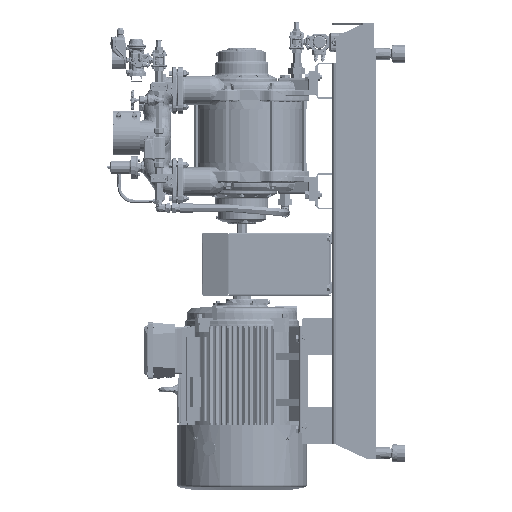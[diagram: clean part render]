
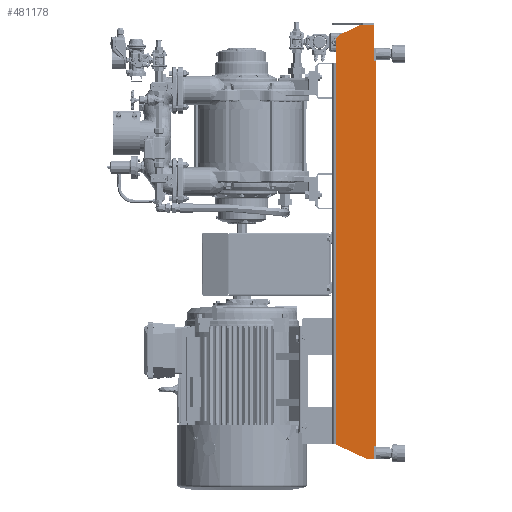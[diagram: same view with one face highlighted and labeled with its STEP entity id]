
A CAD part, left-side view. The second image highlights one B-rep face of the part: STEP entity #481178.
In plain terms, the highlighted planar face has unit normal (-1, 0, 0).
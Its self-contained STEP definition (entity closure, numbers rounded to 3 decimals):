
#31001=PLANE('',#512603);
#54616=FACE_OUTER_BOUND('',#82383,.T.);
#82383=EDGE_LOOP('',(#355766,#355767,#355768,#355769,#355770,#355771,#355772,
#355773,#355774,#355775,#355776,#355777));
#115014=LINE('',#880901,#151652);
#115648=LINE('',#882977,#152286);
#115649=LINE('',#882979,#152287);
#115650=LINE('',#882980,#152288);
#115651=LINE('',#882982,#152289);
#115652=LINE('',#882986,#152290);
#115653=LINE('',#882987,#152291);
#115654=LINE('',#882989,#152292);
#115655=LINE('',#882991,#152293);
#115656=LINE('',#882993,#152294);
#115657=LINE('',#882994,#152295);
#151652=VECTOR('',#579442,10.);
#152286=VECTOR('',#581252,10.);
#152287=VECTOR('',#581253,10.);
#152288=VECTOR('',#581254,10.);
#152289=VECTOR('',#581255,10.);
#152290=VECTOR('',#581258,10.);
#152291=VECTOR('',#581259,10.);
#152292=VECTOR('',#581260,10.);
#152293=VECTOR('',#581261,10.);
#152294=VECTOR('',#581262,10.);
#152295=VECTOR('',#581263,10.);
#180748=CIRCLE('',#512604,25.);
#207159=VERTEX_POINT('',#880898);
#207160=VERTEX_POINT('',#880900);
#207740=VERTEX_POINT('',#882965);
#207743=VERTEX_POINT('',#882975);
#207744=VERTEX_POINT('',#882976);
#207745=VERTEX_POINT('',#882978);
#207746=VERTEX_POINT('',#882981);
#207747=VERTEX_POINT('',#882983);
#207748=VERTEX_POINT('',#882985);
#207749=VERTEX_POINT('',#882988);
#207750=VERTEX_POINT('',#882990);
#207751=VERTEX_POINT('',#882992);
#260141=EDGE_CURVE('',#207159,#207160,#115014,.T.);
#261104=EDGE_CURVE('',#207743,#207744,#115648,.T.);
#261105=EDGE_CURVE('',#207743,#207745,#115649,.T.);
#261106=EDGE_CURVE('',#207160,#207745,#115650,.T.);
#261107=EDGE_CURVE('',#207746,#207159,#115651,.T.);
#261108=EDGE_CURVE('',#207747,#207746,#180748,.T.);
#261109=EDGE_CURVE('',#207748,#207747,#115652,.T.);
#261110=EDGE_CURVE('',#207748,#207740,#115653,.T.);
#261111=EDGE_CURVE('',#207749,#207740,#115654,.T.);
#261112=EDGE_CURVE('',#207750,#207749,#115655,.T.);
#261113=EDGE_CURVE('',#207750,#207751,#115656,.T.);
#261114=EDGE_CURVE('',#207751,#207744,#115657,.T.);
#355766=ORIENTED_EDGE('',*,*,#261104,.F.);
#355767=ORIENTED_EDGE('',*,*,#261105,.T.);
#355768=ORIENTED_EDGE('',*,*,#261106,.F.);
#355769=ORIENTED_EDGE('',*,*,#260141,.F.);
#355770=ORIENTED_EDGE('',*,*,#261107,.F.);
#355771=ORIENTED_EDGE('',*,*,#261108,.F.);
#355772=ORIENTED_EDGE('',*,*,#261109,.F.);
#355773=ORIENTED_EDGE('',*,*,#261110,.T.);
#355774=ORIENTED_EDGE('',*,*,#261111,.F.);
#355775=ORIENTED_EDGE('',*,*,#261112,.F.);
#355776=ORIENTED_EDGE('',*,*,#261113,.T.);
#355777=ORIENTED_EDGE('',*,*,#261114,.T.);
#481178=ADVANCED_FACE('',(#54616),#31001,.T.);
#512603=AXIS2_PLACEMENT_3D('',#882974,#581250,#581251);
#512604=AXIS2_PLACEMENT_3D('',#882984,#581256,#581257);
#579442=DIRECTION('',(0.,-1.,0.));
#581250=DIRECTION('center_axis',(-1.,0.,0.));
#581251=DIRECTION('ref_axis',(0.,0.,
-1.));
#581252=DIRECTION('',(0.,0.,-1.));
#581253=DIRECTION('',(0.,1.,0.));
#581254=DIRECTION('',(0.,0.,-1.));
#581255=DIRECTION('',(0.,-0.906,0.423));
#581256=DIRECTION('center_axis',(1.,0.,0.));
#581257=DIRECTION('ref_axis',(0.,0.843,0.537));
#581258=DIRECTION('',(0.,0.,1.));
#581259=DIRECTION('',(0.,0.,-1.));
#581260=DIRECTION('',(0.,0.906,0.423));
#581261=DIRECTION('',(0.,1.,0.));
#581262=DIRECTION('',(0.,0.,1.));
#581263=DIRECTION('',(0.,-1.,0.));
#880898=CARTESIAN_POINT('',(-254.,-3.804,666.766));
#880900=CARTESIAN_POINT('',(-254.,-49.,666.766));
#880901=CARTESIAN_POINT('',(-254.,-3.804,666.766));
#882965=CARTESIAN_POINT('',(-254.,83.,-771.734));
#882974=CARTESIAN_POINT('Origin',(-254.,348.586,-186.984));
#882975=CARTESIAN_POINT('',(-254.,-55.,542.766));
#882976=CARTESIAN_POINT('',(-254.,-55.,-777.734));
#882977=CARTESIAN_POINT('',(-254.,-55.,-980.734));
#882978=CARTESIAN_POINT('',(-254.,-49.,542.766));
#882979=CARTESIAN_POINT('',(-254.,146.793,542.766));
#882980=CARTESIAN_POINT('',(-254.,-49.,666.766));
#882981=CARTESIAN_POINT('',(-254.,68.565,633.02));
#882982=CARTESIAN_POINT('',(-254.,83.,626.289));
#882983=CARTESIAN_POINT('',(-254.,83.,610.362));
#882984=CARTESIAN_POINT('Origin',(-254.,58.,610.362));
#882985=CARTESIAN_POINT('',(-254.,83.,536.766));
#882986=CARTESIAN_POINT('',(-254.,83.,536.766));
#882987=CARTESIAN_POINT('',(-254.,83.,-186.984));
#882988=CARTESIAN_POINT('',(-254.,-24.225,-821.734));
#882989=CARTESIAN_POINT('',(-254.,-24.225,-821.734));
#882990=CARTESIAN_POINT('',(-254.,-49.,-821.734));
#882991=CARTESIAN_POINT('',(-254.,-55.,-821.734));
#882992=CARTESIAN_POINT('',(-254.,-49.,-777.734));
#882993=CARTESIAN_POINT('',(-254.,-49.,-528.859));
#882994=CARTESIAN_POINT('',(-254.,146.793,-777.734));
